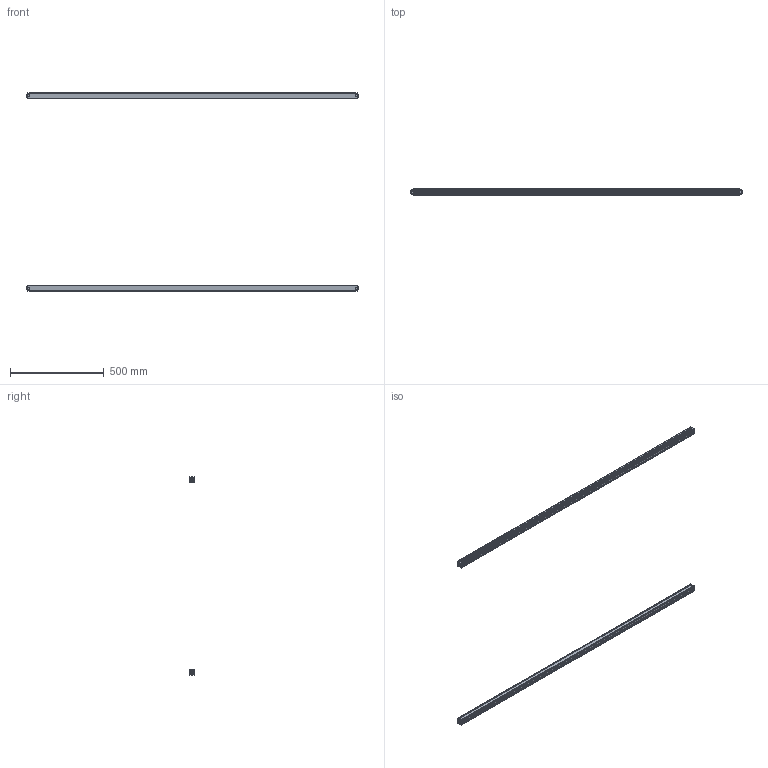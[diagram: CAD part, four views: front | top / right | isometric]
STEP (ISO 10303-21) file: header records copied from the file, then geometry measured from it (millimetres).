
FILE_DESCRIPTION(/* description */ (''),/* implementation_level */ '2;1');
FILE_NAME(/* name */ 'THS20-86.stp',/* time_stamp */ '2023-12-26T10:32:32+08:00',/* author */ (''),/* organization */ (''),/* preprocessor_version */ 'ST-DEVELOPER v16',/* originating_system */ 'SIEMENS PLM Software NX 11.0',/* authorisation */ '');
FILE_SCHEMA (('AP203_CONFIGURATION_CONTROLLED_3D_DESIGN_OF_MECHANICAL_PARTS_AND_ASSEMBLIES_MIM_LF { 1 0 10303 403 2 1 2}'));
Length unit declared in the file: millimetre
Products named in the file (10): 161123; 141124; 121125; 131126; 1021127; 1011128; 111129; ASM0002_ASM1130; 0000_ASM1131; THS20-52 - 源文件_stp
Assembly tree (10 placements, depth 4):
  THS20-52 - 源文件_stp
    0000_ASM1131  x2
      111129
      1011128
      1021127
      131126
      121125
      ASM0002_ASM1130
        141124
        161123
Bounding box: 1772 x 30.3 x 1058.6 mm (x, y, z)
Volume: 1087755.1 mm3; surface area: 1160615.8 mm2
Topology: 10 solids, 14 shells, 1080 faces, 3010 edges, 1986 vertices
Faces by surface type: plane 764, cylinder 288, cone 28
Entity records: 18484 total; most frequent: CARTESIAN_POINT 3097, ORIENTED_EDGE 3006, DIRECTION 2915, EDGE_CURVE 1505, LINE 1173, VECTOR 1173, VERTEX_POINT 993, AXIS2_PLACEMENT_3D 871
